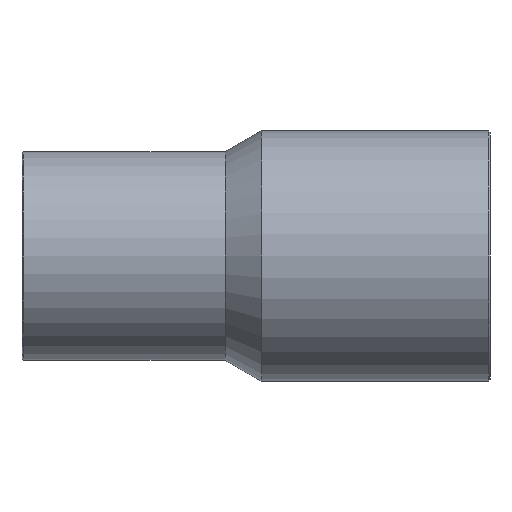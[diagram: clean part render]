
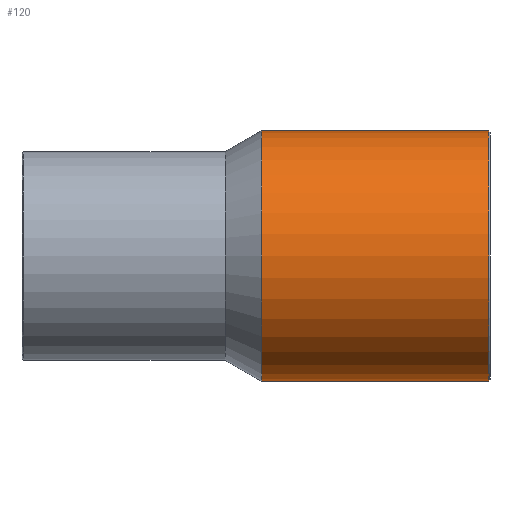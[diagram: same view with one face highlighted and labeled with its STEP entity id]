
A CAD part, front view. The second image highlights one B-rep face of the part: STEP entity #120.
In plain terms, the highlighted cylindrical face has radius 45 mm (diameter 90 mm), a full revolution.
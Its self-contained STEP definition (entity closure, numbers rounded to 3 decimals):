
#26=ORIENTED_EDGE('',*,*,#46,.T.);
#27=ORIENTED_EDGE('',*,*,#47,.F.);
#46=EDGE_CURVE('',#56,#56,#66,.T.);
#47=EDGE_CURVE('',#57,#57,#67,.T.);
#56=VERTEX_POINT('',#208);
#57=VERTEX_POINT('',#210);
#66=CIRCLE('',#144,45.);
#67=CIRCLE('',#145,45.);
#76=EDGE_LOOP('',(#26));
#77=EDGE_LOOP('',(#27));
#96=FACE_BOUND('',#76,.T.);
#97=FACE_BOUND('',#77,.T.);
#116=CYLINDRICAL_SURFACE('',#143,45.);
#120=ADVANCED_FACE('',(#96,#97),#116,.T.);
#143=AXIS2_PLACEMENT_3D('',#206,#165,#166);
#144=AXIS2_PLACEMENT_3D('',#207,#167,#168);
#145=AXIS2_PLACEMENT_3D('',#209,#169,#170);
#165=DIRECTION('',(-1.,0.,0.));
#166=DIRECTION('',(0.,0.,1.));
#167=DIRECTION('',(-1.,0.,0.));
#168=DIRECTION('',(0.,0.,1.));
#169=DIRECTION('',(-1.,0.,0.));
#170=DIRECTION('',(0.,0.,1.));
#206=CARTESIAN_POINT('',(-60.,0.,0.));
#207=CARTESIAN_POINT('',(88.,0.,0.));
#208=CARTESIAN_POINT('',(88.,0.,45.));
#209=CARTESIAN_POINT('',(6.5,0.,0.));
#210=CARTESIAN_POINT('',(6.5,0.,45.));
